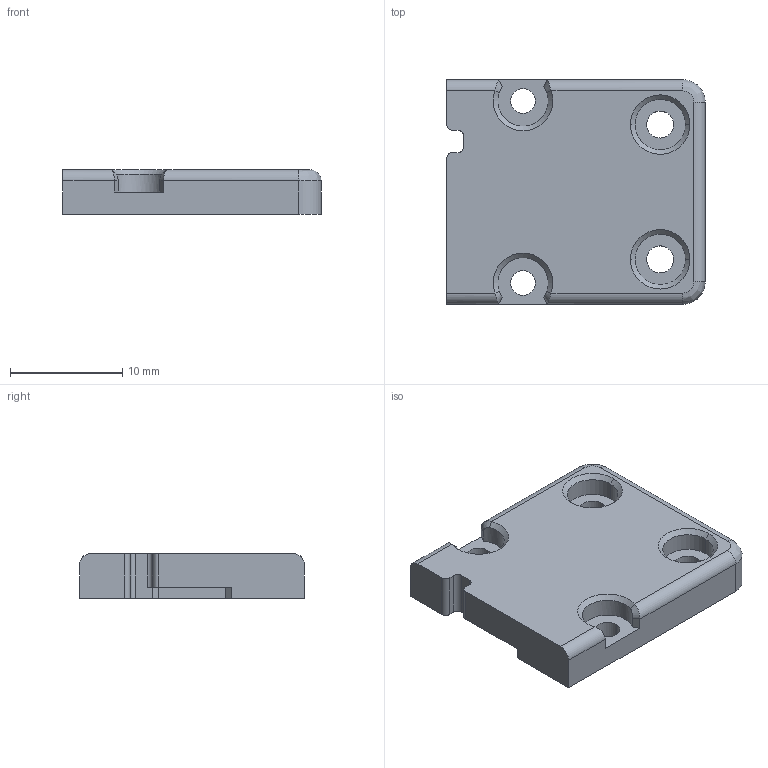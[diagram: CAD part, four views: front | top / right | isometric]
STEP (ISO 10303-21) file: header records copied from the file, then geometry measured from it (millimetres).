
FILE_DESCRIPTION((''),'2;1');
FILE_NAME('0007_10_GGG','2025-04-09T12:14:53',('Administrator'),(''),'CREO PARAMETRIC BY PTC INC, 2024063','CREO PARAMETRIC BY PTC INC, 2024063','');
FILE_SCHEMA(('CONFIG_CONTROL_DESIGN'));
Length unit declared in the file: millimetre
Products named in the file (1): 0007_10_GGG
Bounding box: 23 x 20 x 4 mm (x, y, z)
Volume: 1577.6 mm3; surface area: 1360.1 mm2
Topology: 1 solids, 1 shells, 66 faces, 165 edges, 104 vertices
Faces by surface type: cylinder 27, plane 25, cone 8, bspline 6
Entity records: 2265 total; most frequent: CARTESIAN_POINT 617, DIRECTION 337, ORIENTED_EDGE 330, EDGE_CURVE 165, AXIS2_PLACEMENT_3D 120, VERTEX_POINT 104, VECTOR 97, LINE 97
